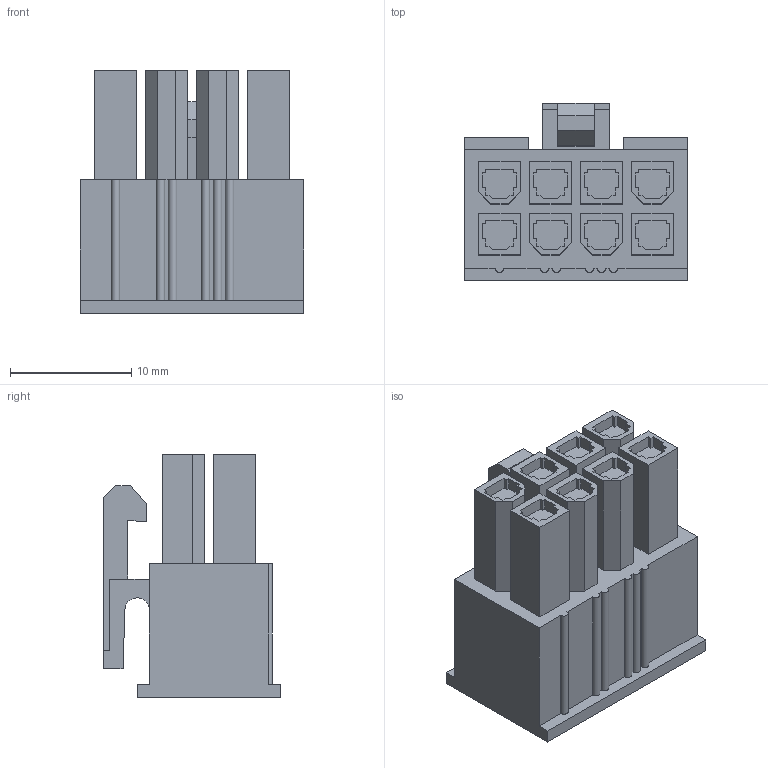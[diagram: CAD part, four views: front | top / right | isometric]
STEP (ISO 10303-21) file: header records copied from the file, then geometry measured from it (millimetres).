
FILE_DESCRIPTION (( 'STEP AP214' ), '1' );
FILE_NAME ('33780r.STEP', '2011-07-11T14:17:13', ( 'Vicor User' ), ( 'Microsoft' ), 'SwSTEP 2.0', 'SolidWorks 2010', '' );
FILE_SCHEMA (( 'AUTOMOTIVE_DESIGN' ));
Length unit declared in the file: inch
Products named in the file (1): 33780r
Bounding box: 18.4 x 14.55 x 20 mm (x, y, z)
Volume: 2830.2 mm3; surface area: 2439.1 mm2
Topology: 1 solids, 1 shells, 277 faces, 747 edges, 498 vertices
Faces by surface type: plane 270, cylinder 7
Entity records: 8555 total; most frequent: CARTESIAN_POINT 1523, ORIENTED_EDGE 1494, DIRECTION 1317, EDGE_CURVE 747, LINE 733, VECTOR 733, VERTEX_POINT 498, EDGE_LOOP 303
